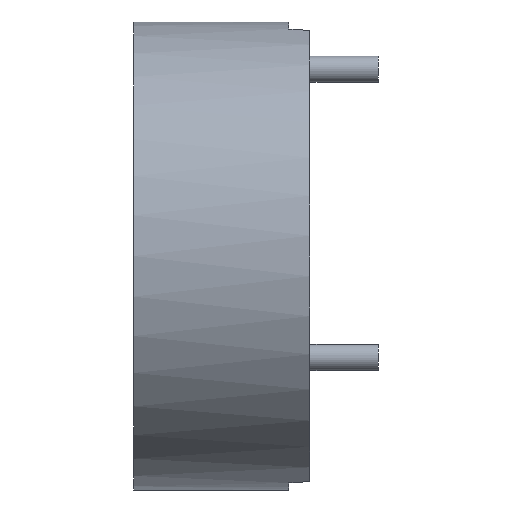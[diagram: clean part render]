
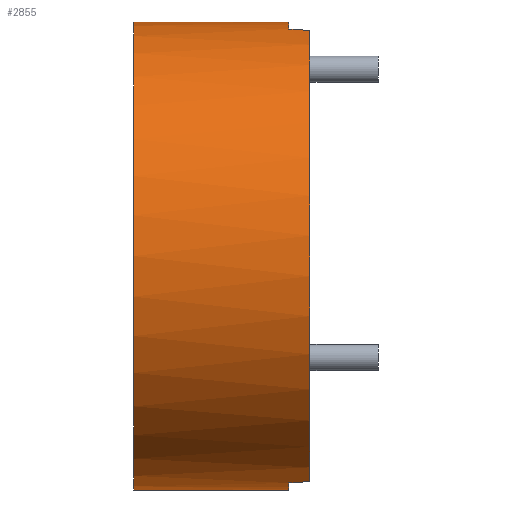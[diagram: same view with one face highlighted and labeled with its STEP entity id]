
A CAD part, left-side view. The second image highlights one B-rep face of the part: STEP entity #2855.
In plain terms, the highlighted cylindrical face has radius 14.287 mm (diameter 28.575 mm), a partial arc.
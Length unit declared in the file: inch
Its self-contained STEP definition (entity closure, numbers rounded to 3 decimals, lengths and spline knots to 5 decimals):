
#117 = CARTESIAN_POINT ( 'NONE',  ( 0., -0.1615, -0.5625 ) ) ;
#288 = EDGE_CURVE ( 'NONE', #2072, #3886, #7545, .T. ) ;
#300 = LINE ( 'NONE', #1016, #8785 ) ;
#367 = ORIENTED_EDGE ( 'NONE', *, *, #4020, .F. ) ;
#496 = CARTESIAN_POINT ( 'NONE',  ( -0.1366, -0.1615, -0.54566 ) ) ;
#943 = DIRECTION ( 'NONE',  ( 0., 1., 0. ) ) ;
#964 = VERTEX_POINT ( 'NONE', #4092 ) ;
#1016 = CARTESIAN_POINT ( 'NONE',  ( 0., 0.2115, -0.5625 ) ) ;
#1200 = EDGE_CURVE ( 'NONE', #2368, #6979, #1984, .T. ) ;
#1249 = EDGE_CURVE ( 'NONE', #964, #3281, #8230, .T. ) ;
#1394 = CARTESIAN_POINT ( 'NONE',  ( -0.15, -0.2115, 0.54213 ) ) ;
#1419 = CARTESIAN_POINT ( 'NONE',  ( -0.1366, -0.1615, 0.54566 ) ) ;
#1677 = CARTESIAN_POINT ( 'NONE',  ( -0.14555, -0.19489, -0.54336 ) ) ;
#1971 = DIRECTION ( 'NONE',  ( 0., 0., 1. ) ) ;
#1984 = CIRCLE ( 'NONE', #2852, 0.5625 ) ;
#2072 = VERTEX_POINT ( 'NONE', #6865 ) ;
#2314 = EDGE_CURVE ( 'NONE', #5094, #3281, #6422, .T. ) ;
#2368 = VERTEX_POINT ( 'NONE', #117 ) ;
#2429 = CARTESIAN_POINT ( 'NONE',  ( 0., 0.2115, 0. ) ) ;
#2611 = DIRECTION ( 'NONE',  ( 0., 0., -1. ) ) ;
#2783 = CARTESIAN_POINT ( 'NONE',  ( 0., -0.1615, 0. ) ) ;
#2798 = ORIENTED_EDGE ( 'NONE', *, *, #7703, .T. ) ;
#2852 = AXIS2_PLACEMENT_3D ( 'NONE', #2783, #6042, #1971 ) ;
#2855 = ADVANCED_FACE ( 'NONE', ( #6340 ), #3240, .T. ) ;
#2914 = ORIENTED_EDGE ( 'NONE', *, *, #288, .T. ) ;
#2953 = DIRECTION ( 'NONE',  ( 0., -1., 0. ) ) ;
#3238 = CARTESIAN_POINT ( 'NONE',  ( -0.14108, -0.17822, -0.54454 ) ) ;
#3240 = CYLINDRICAL_SURFACE ( 'NONE', #8701, 0.5625 ) ;
#3281 = VERTEX_POINT ( 'NONE', #3457 ) ;
#3457 = CARTESIAN_POINT ( 'NONE',  ( 0., -0.1615, 0.5625 ) ) ;
#3485 = CARTESIAN_POINT ( 'NONE',  ( -0.14555, -0.19489, 0.54336 ) ) ;
#3603 = DIRECTION ( 'NONE',  ( 0., 1., 0. ) ) ;
#3842 = AXIS2_PLACEMENT_3D ( 'NONE', #2429, #943, #7750 ) ;
#3886 = VERTEX_POINT ( 'NONE', #1394 ) ;
#3903 = ORIENTED_EDGE ( 'NONE', *, *, #1249, .F. ) ;
#4020 = EDGE_CURVE ( 'NONE', #7868, #964, #7846, .T. ) ;
#4092 = CARTESIAN_POINT ( 'NONE',  ( 0., 0.2115, 0.5625 ) ) ;
#4104 = DIRECTION ( 'NONE',  ( 0., 1., 0. ) ) ;
#4220 = DIRECTION ( 'NONE',  ( 0., -1., 0. ) ) ;
#4370 = ORIENTED_EDGE ( 'NONE', *, *, #7173, .T. ) ;
#4614 = EDGE_LOOP ( 'NONE', ( #3903, #367, #4370, #8063, #2798, #2914, #5908, #7113 ) ) ;
#4666 = EDGE_CURVE ( 'NONE', #3886, #5094, #8085, .T. ) ;
#5002 = DIRECTION ( 'NONE',  ( 0., -1., 0. ) ) ;
#5094 = VERTEX_POINT ( 'NONE', #6855 ) ;
#5403 =( BOUNDED_CURVE ( )  B_SPLINE_CURVE ( 3, ( #496, #3238, #1677, #5879 ),
 .UNSPECIFIED., .F., .F. ) 
 B_SPLINE_CURVE_WITH_KNOTS ( ( 4, 4 ),
 ( 4.95769, 4.98232 ),
 .UNSPECIFIED. ) 
 CURVE ( )  GEOMETRIC_REPRESENTATION_ITEM ( )  RATIONAL_B_SPLINE_CURVE ( ( 1., 1., 1., 1. ) ) 
 REPRESENTATION_ITEM ( '' )  );
#5420 = VECTOR ( 'NONE', #4220, 39.37008 ) ;
#5656 = CARTESIAN_POINT ( 'NONE',  ( 0., 0.2115, -0.5625 ) ) ;
#5879 = CARTESIAN_POINT ( 'NONE',  ( -0.15, -0.2115, -0.54213 ) ) ;
#5908 = ORIENTED_EDGE ( 'NONE', *, *, #4666, .T. ) ;
#5962 = CARTESIAN_POINT ( 'NONE',  ( 0., 0.2115, 0. ) ) ;
#6042 = DIRECTION ( 'NONE',  ( 0., 1., 0. ) ) ;
#6132 = CARTESIAN_POINT ( 'NONE',  ( 0., 0.2115, 0.5625 ) ) ;
#6280 = DIRECTION ( 'NONE',  ( 0., 0., 1. ) ) ;
#6340 = FACE_OUTER_BOUND ( 'NONE', #4614, .T. ) ;
#6422 = CIRCLE ( 'NONE', #6844, 0.5625 ) ;
#6780 = CARTESIAN_POINT ( 'NONE',  ( -0.15, -0.2115, 0.54213 ) ) ;
#6822 = DIRECTION ( 'NONE',  ( 0., 0., 1. ) ) ;
#6825 = AXIS2_PLACEMENT_3D ( 'NONE', #8377, #3603, #6280 ) ;
#6844 = AXIS2_PLACEMENT_3D ( 'NONE', #8120, #4104, #6822 ) ;
#6855 = CARTESIAN_POINT ( 'NONE',  ( -0.1366, -0.1615, 0.54566 ) ) ;
#6865 = CARTESIAN_POINT ( 'NONE',  ( -0.15, -0.2115, -0.54213 ) ) ;
#6925 = CARTESIAN_POINT ( 'NONE',  ( -0.14108, -0.17822, 0.54454 ) ) ;
#6979 = VERTEX_POINT ( 'NONE', #7282 ) ;
#7113 = ORIENTED_EDGE ( 'NONE', *, *, #2314, .T. ) ;
#7173 = EDGE_CURVE ( 'NONE', #7868, #2368, #300, .T. ) ;
#7282 = CARTESIAN_POINT ( 'NONE',  ( -0.1366, -0.1615, -0.54566 ) ) ;
#7545 = CIRCLE ( 'NONE', #6825, 0.5625 ) ;
#7703 = EDGE_CURVE ( 'NONE', #6979, #2072, #5403, .T. ) ;
#7750 = DIRECTION ( 'NONE',  ( 0., 0., 1. ) ) ;
#7846 = CIRCLE ( 'NONE', #3842, 0.5625 ) ;
#7868 = VERTEX_POINT ( 'NONE', #5656 ) ;
#8063 = ORIENTED_EDGE ( 'NONE', *, *, #1200, .T. ) ;
#8085 =( BOUNDED_CURVE ( )  B_SPLINE_CURVE ( 3, ( #6780, #3485, #6925, #1419 ),
 .UNSPECIFIED., .F., .F. ) 
 B_SPLINE_CURVE_WITH_KNOTS ( ( 4, 4 ),
 ( 1.30086, 1.32549 ),
 .UNSPECIFIED. ) 
 CURVE ( )  GEOMETRIC_REPRESENTATION_ITEM ( )  RATIONAL_B_SPLINE_CURVE ( ( 1., 1., 1., 1. ) ) 
 REPRESENTATION_ITEM ( '' )  );
#8120 = CARTESIAN_POINT ( 'NONE',  ( 0., -0.1615, 0. ) ) ;
#8230 = LINE ( 'NONE', #6132, #5420 ) ;
#8377 = CARTESIAN_POINT ( 'NONE',  ( 0., -0.2115, 0. ) ) ;
#8701 = AXIS2_PLACEMENT_3D ( 'NONE', #5962, #2953, #2611 ) ;
#8785 = VECTOR ( 'NONE', #5002, 39.37008 ) ;
